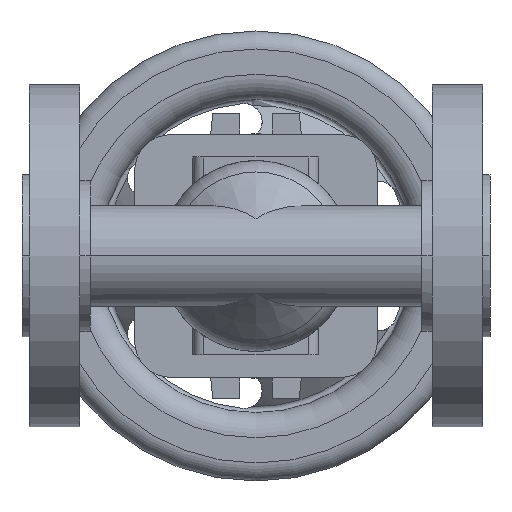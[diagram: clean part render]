
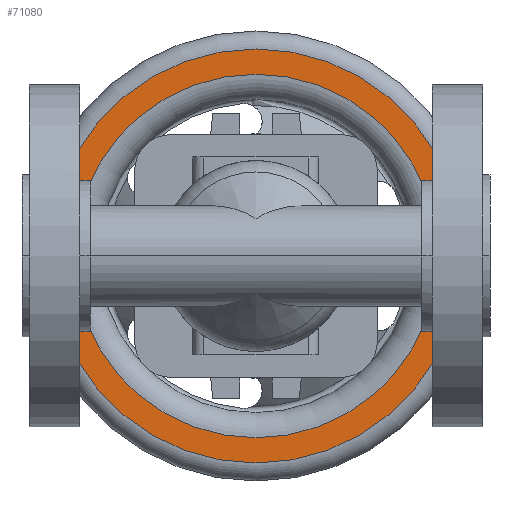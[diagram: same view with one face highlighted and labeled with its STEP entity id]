
A CAD part, front view. The second image highlights one B-rep face of the part: STEP entity #71080.
In plain terms, the highlighted planar face has unit normal (0, -1, 0).
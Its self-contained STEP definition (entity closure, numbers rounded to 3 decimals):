
#70420=CARTESIAN_POINT('',(122.5,212.3,0.));
#70430=VERTEX_POINT('',#70420);
#70530=CARTESIAN_POINT('',(7.5,212.3,0.));
#70540=VERTEX_POINT('',#70530);
#70570=CARTESIAN_POINT('',(65.,212.3,0.));
#70580=DIRECTION('',(0.,1.,0.));
#70590=DIRECTION('',(-1.,0.,0.));
#70600=AXIS2_PLACEMENT_3D('',#70570,#70580,#70590);
#70610=CIRCLE('',#70600,57.5);
#70620=CARTESIAN_POINT('',(65.,212.3,-57.5));
#70630=VERTEX_POINT('',#70620);
#70640=EDGE_CURVE('',#70630,#70540,#70610,.T.);
#70660=EDGE_CURVE('',#70430,#70630,#70610,.T.);
#70780=CARTESIAN_POINT('',(11.,212.3,0.));
#70790=DIRECTION('',(0.,-1.,0.));
#70800=DIRECTION('',(1.,0.,0.));
#70810=AXIS2_PLACEMENT_3D('',#70780,#70790,#70800);
#70820=PLANE('',#70810);
#70830=ORIENTED_EDGE('',*,*,#70640,.F.);
#70840=EDGE_CURVE('',#70540,#70430,#70610,.T.);
#70850=ORIENTED_EDGE('',*,*,#70840,.F.);
#70860=ORIENTED_EDGE('',*,*,#70660,.F.);
#70870=EDGE_LOOP('',(#70860,#70850,#70830));
#70880=FACE_OUTER_BOUND('',#70870,.T.);
#70890=CARTESIAN_POINT('',(65.,212.3,0.));
#70900=DIRECTION('',(0.,1.,0.));
#70910=DIRECTION('',(-1.,0.,0.));
#70920=AXIS2_PLACEMENT_3D('',#70890,#70900,#70910);
#70930=CIRCLE('',#70920,50.5);
#70940=CARTESIAN_POINT('',(115.5,212.3,0.));
#70950=VERTEX_POINT('',#70940);
#70960=CARTESIAN_POINT('',(14.5,212.3,0.));
#70970=VERTEX_POINT('',#70960);
#70980=EDGE_CURVE('',#70950,#70970,#70930,.T.);
#70990=ORIENTED_EDGE('',*,*,#70980,.T.);
#71000=CARTESIAN_POINT('',(65.,212.3,50.5));
#71010=VERTEX_POINT('',#71000);
#71020=EDGE_CURVE('',#71010,#70950,#70930,.T.);
#71030=ORIENTED_EDGE('',*,*,#71020,.T.);
#71040=EDGE_CURVE('',#70970,#71010,#70930,.T.);
#71050=ORIENTED_EDGE('',*,*,#71040,.T.);
#71060=EDGE_LOOP('',(#71050,#71030,#70990));
#71070=FACE_BOUND('',#71060,.T.);
#71080=ADVANCED_FACE('',(#70880,#71070),#70820,.T.);
